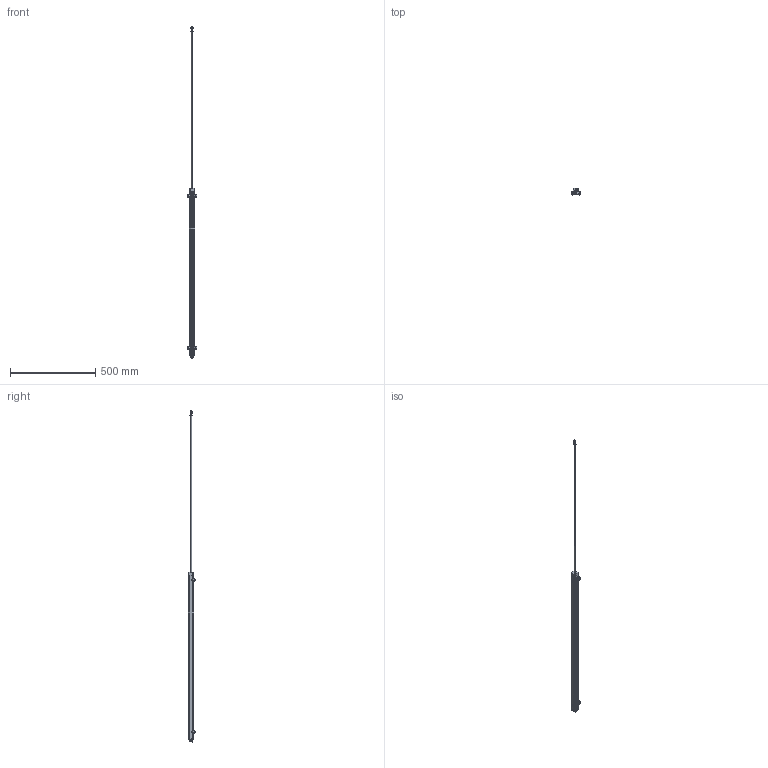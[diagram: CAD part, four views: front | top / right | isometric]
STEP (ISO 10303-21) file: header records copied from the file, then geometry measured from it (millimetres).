
FILE_DESCRIPTION (( 'STEP AP214' ), '1' );
FILE_NAME ('LWH_900.STEP', '2008-11-06T12:27:18', ( 'novotechnik' ), ( 'novotechnik' ), 'SwSTEP 2.0', 'SolidWorks 2008', '' );
FILE_SCHEMA (( 'AUTOMOTIVE_DESIGN' ));
Length unit declared in the file: millimetre
Products named in the file (4): LWH_900_-_Schubstange_Standard; LWH_900_-_Gehaeuse_Standard; LWH_-_Klammer_Standard; LWH_900
Assembly tree (4 placements, depth 2):
  LWH_900
    LWH_900_-_Schubstange_Standard
    LWH_-_Klammer_Standard  x2
    LWH_900_-_Gehaeuse_Standard
Bounding box: 56 x 43.08 x 1950 mm (x, y, z)
Volume: 909533.1 mm3; surface area: 220411.2 mm2
Topology: 35 solids, 35 shells, 1066 faces, 2743 edges, 1770 vertices
Faces by surface type: plane 501, cylinder 392, cone 114, bspline 37, torus 22
Entity records: 39859 total; most frequent: CARTESIAN_POINT 7393, ORIENTED_EDGE 4638, DIRECTION 4515, EDGE_CURVE 2319, AXIS2_PLACEMENT_3D 1590, VERTEX_POINT 1500, LINE 1335, VECTOR 1335
